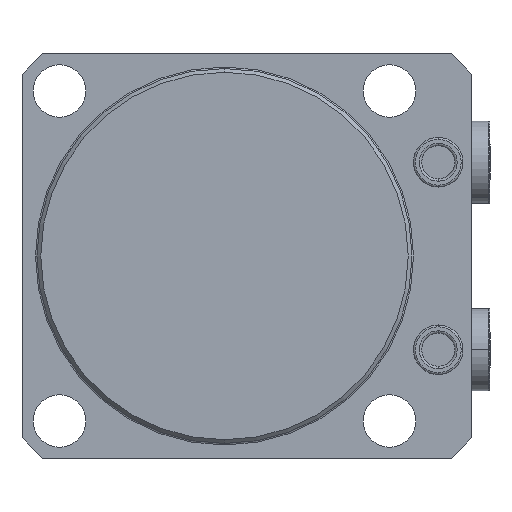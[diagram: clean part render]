
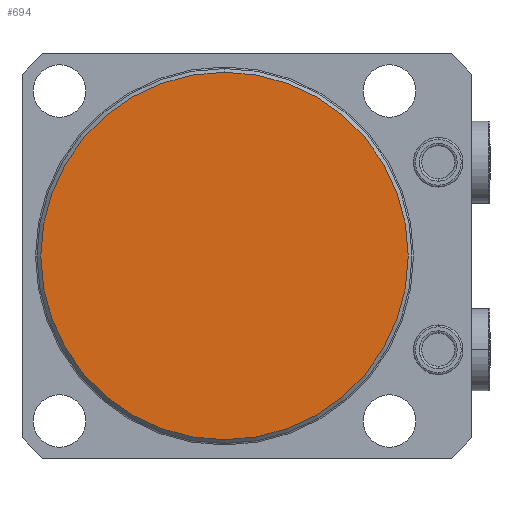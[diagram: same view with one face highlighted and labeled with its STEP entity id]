
A CAD part, front view. The second image highlights one B-rep face of the part: STEP entity #694.
In plain terms, the highlighted planar face has unit normal (0, -1, 0) as drawn and (0, 1, 0) by its records, which use the part's own axes.
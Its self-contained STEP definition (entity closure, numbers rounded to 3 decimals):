
#244=PLANE('',#4945);
#694=ADVANCED_FACE('',(#955),#244,.T.);
#955=FACE_OUTER_BOUND('',#1239,.F.);
#1239=EDGE_LOOP('',(#2888,#2889));
#2888=ORIENTED_EDGE('',*,*,#4125,.T.);
#2889=ORIENTED_EDGE('',*,*,#4013,.T.);
#3461=VERTEX_POINT('',#7510);
#3462=VERTEX_POINT('',#7511);
#4013=EDGE_CURVE('',#3461,#3462,#4424,.T.);
#4125=EDGE_CURVE('',#3462,#3461,#4446,.T.);
#4424=CIRCLE('',#4901,49.);
#4446=CIRCLE('',#4944,49.);
#4901=AXIS2_PLACEMENT_3D('',#7509,#6096,#6097);
#4944=AXIS2_PLACEMENT_3D('',#7843,#6244,#6245);
#4945=AXIS2_PLACEMENT_3D('',#7844,#6246,#6247);
#6096=DIRECTION('',(0.,-1.,0.));
#6097=DIRECTION('',(0.,0.,1.));
#6244=DIRECTION('',(0.,-1.,0.));
#6245=DIRECTION('',(0.,0.,1.));
#6246=DIRECTION('',(0.,1.,0.));
#6247=DIRECTION('',(0.,0.,1.));
#7509=CARTESIAN_POINT('',(0.,-65.,0.));
#7510=CARTESIAN_POINT('',(0.,-65.,-49.));
#7511=CARTESIAN_POINT('',(0.,-65.,49.));
#7843=CARTESIAN_POINT('',(0.,-65.,0.));
#7844=CARTESIAN_POINT('',(0.,-65.,0.));
